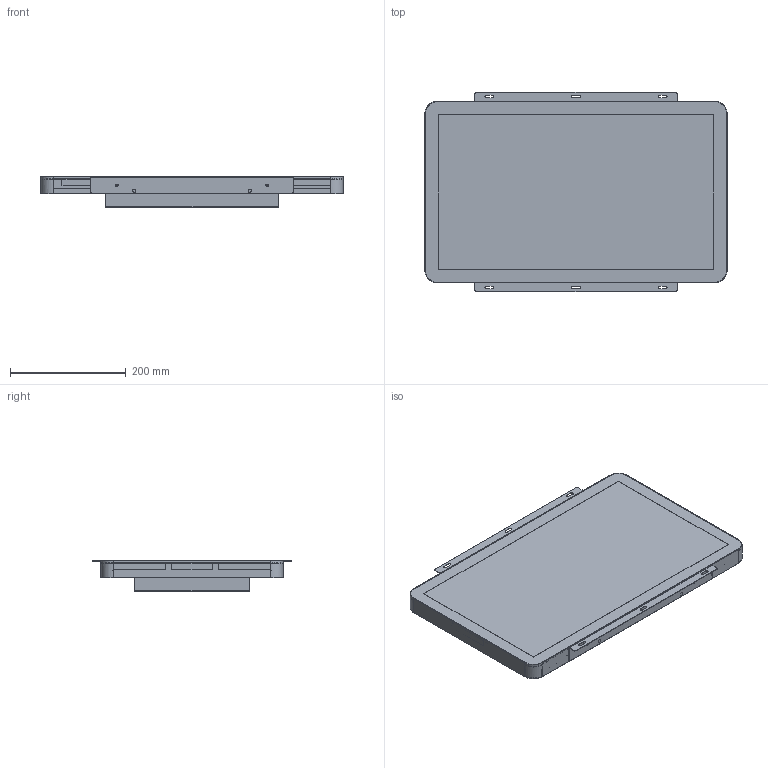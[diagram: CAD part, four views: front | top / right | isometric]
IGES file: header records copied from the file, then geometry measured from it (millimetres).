
Global section: file name: FIE215FM-P-Bracket; native system: AutoCAD 2019 – 繁體中文 (Traditional Chinese),62HAutode; preprocessor: sk Translation Framework DWG producer (atf_dwg_producer); organization: unknown; date: 20210618.162730; units: millimetre
Bounding box: 522.94 x 344.41 x 52.5 mm (x, y, z)
Volume: 2781012.8 mm3; surface area: 1738362.5 mm2
Topology: 31 solids, 31 shells, 1244 faces, 3174 edges, 2133 vertices
Faces by surface type: bspline 1244
